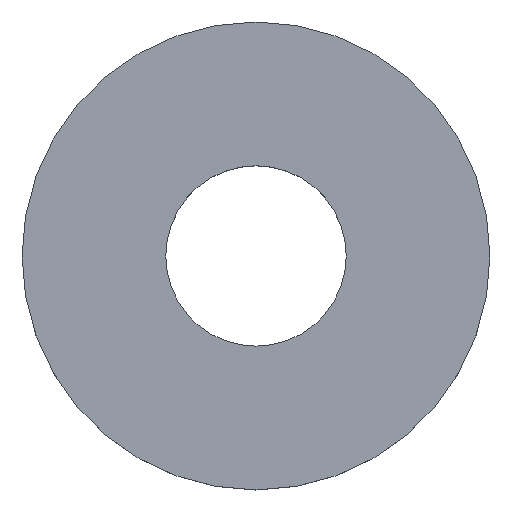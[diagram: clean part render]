
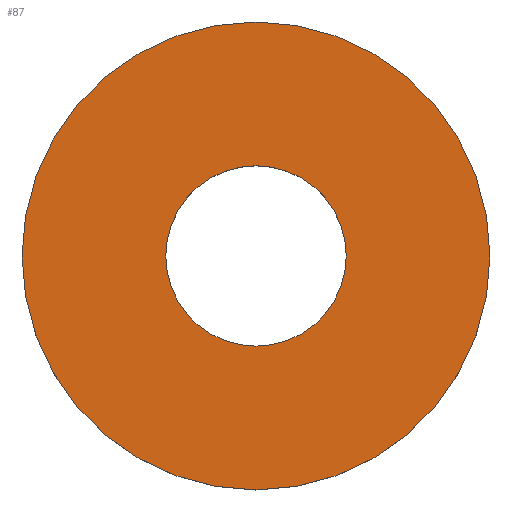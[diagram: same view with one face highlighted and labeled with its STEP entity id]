
A CAD part, top view. The second image highlights one B-rep face of the part: STEP entity #87.
In plain terms, the highlighted planar face has unit normal (0, 0, 1).
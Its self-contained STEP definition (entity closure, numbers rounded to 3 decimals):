
#7 = ORIENTED_EDGE ( 'NONE', *, *, #104, .F. ) ;
#10 = EDGE_LOOP ( 'NONE', ( #7, #73 ) ) ;
#11 = VERTEX_POINT ( 'NONE', #44 ) ;
#12 = DIRECTION ( 'NONE',  ( 0., 0., 1. ) ) ;
#15 = DIRECTION ( 'NONE',  ( 0., 0., 1. ) ) ;
#27 = CARTESIAN_POINT ( 'NONE',  ( 0., 0., 4. ) ) ;
#35 = AXIS2_PLACEMENT_3D ( 'NONE', #137, #37, #123 ) ;
#36 = VERTEX_POINT ( 'NONE', #125 ) ;
#37 = DIRECTION ( 'NONE',  ( 0., 0., 1. ) ) ;
#38 = CARTESIAN_POINT ( 'NONE',  ( 0., 0., 4. ) ) ;
#40 = VERTEX_POINT ( 'NONE', #191 ) ;
#42 = AXIS2_PLACEMENT_3D ( 'NONE', #64, #12, #110 ) ;
#43 = AXIS2_PLACEMENT_3D ( 'NONE', #112, #190, #80 ) ;
#44 = CARTESIAN_POINT ( 'NONE',  ( -20.75, 0., 4. ) ) ;
#50 = PLANE ( 'NONE',  #96 ) ;
#60 = DIRECTION ( 'NONE',  ( 1., 0., 0. ) ) ;
#62 = AXIS2_PLACEMENT_3D ( 'NONE', #38, #129, #126 ) ;
#64 = CARTESIAN_POINT ( 'NONE',  ( 0., 0., 4. ) ) ;
#71 = ORIENTED_EDGE ( 'NONE', *, *, #136, .T. ) ;
#73 = ORIENTED_EDGE ( 'NONE', *, *, #111, .F. ) ;
#80 = DIRECTION ( 'NONE',  ( 1., 0., 0. ) ) ;
#87 = ADVANCED_FACE ( 'NONE', ( #133, #158 ), #50, .T. ) ;
#96 = AXIS2_PLACEMENT_3D ( 'NONE', #27, #15, #60 ) ;
#104 = EDGE_CURVE ( 'NONE', #186, #36, #152, .T. ) ;
#110 = DIRECTION ( 'NONE',  ( 1., 0., 0. ) ) ;
#111 = EDGE_CURVE ( 'NONE', #36, #186, #118, .T. ) ;
#112 = CARTESIAN_POINT ( 'NONE',  ( 0., 0., 4. ) ) ;
#113 = CIRCLE ( 'NONE', #42, 20.75 ) ;
#118 = CIRCLE ( 'NONE', #62, 8. ) ;
#119 = EDGE_CURVE ( 'NONE', #40, #11, #113, .T. ) ;
#123 = DIRECTION ( 'NONE',  ( 1., 0., 0. ) ) ;
#125 = CARTESIAN_POINT ( 'NONE',  ( 8., 0., 4. ) ) ;
#126 = DIRECTION ( 'NONE',  ( 1., 0., 0. ) ) ;
#129 = DIRECTION ( 'NONE',  ( 0., 0., 1. ) ) ;
#133 = FACE_OUTER_BOUND ( 'NONE', #179, .T. ) ;
#136 = EDGE_CURVE ( 'NONE', #11, #40, #209, .T. ) ;
#137 = CARTESIAN_POINT ( 'NONE',  ( 0., 0., 4. ) ) ;
#152 = CIRCLE ( 'NONE', #43, 8. ) ;
#158 = FACE_BOUND ( 'NONE', #10, .T. ) ;
#179 = EDGE_LOOP ( 'NONE', ( #71, #214 ) ) ;
#186 = VERTEX_POINT ( 'NONE', #207 ) ;
#190 = DIRECTION ( 'NONE',  ( 0., 0., 1. ) ) ;
#191 = CARTESIAN_POINT ( 'NONE',  ( 20.75, 0., 4. ) ) ;
#207 = CARTESIAN_POINT ( 'NONE',  ( -8., 0., 4. ) ) ;
#209 = CIRCLE ( 'NONE', #35, 20.75 ) ;
#214 = ORIENTED_EDGE ( 'NONE', *, *, #119, .T. ) ;
